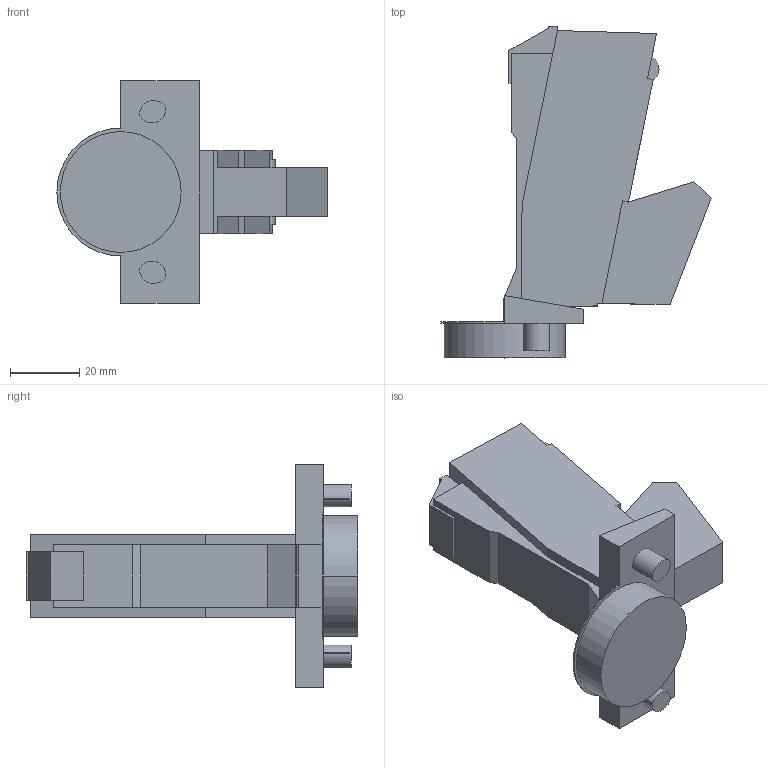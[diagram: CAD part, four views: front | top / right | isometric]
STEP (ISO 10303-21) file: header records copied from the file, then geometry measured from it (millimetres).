
FILE_DESCRIPTION (( 'STEP AP214' ), '1' );
FILE_NAME ('Scharnier TS Impresso 160° MB_BB, K00 - Neu -.step', '2019-09-17T09:14:36', ( '' ), ( '' ), 'SwSTEP 2.0', 'SolidWorks 2019', '' );
FILE_SCHEMA (( 'AUTOMOTIVE_DESIGN' ));
Length unit declared in the file: millimetre
Products named in the file (1): Scharnier TS Impresso 160° MB_BB, K00 - Neu -
Bounding box: 78.27 x 96.09 x 64.5 mm (x, y, z)
Volume: 91963.5 mm3; surface area: 18776.2 mm2
Topology: 1 solids, 1 shells, 65 faces, 173 edges, 114 vertices
Faces by surface type: plane 54, cylinder 11
Entity records: 2031 total; most frequent: CARTESIAN_POINT 353, ORIENTED_EDGE 346, DIRECTION 327, EDGE_CURVE 173, LINE 151, VECTOR 151, VERTEX_POINT 114, AXIS2_PLACEMENT_3D 88
